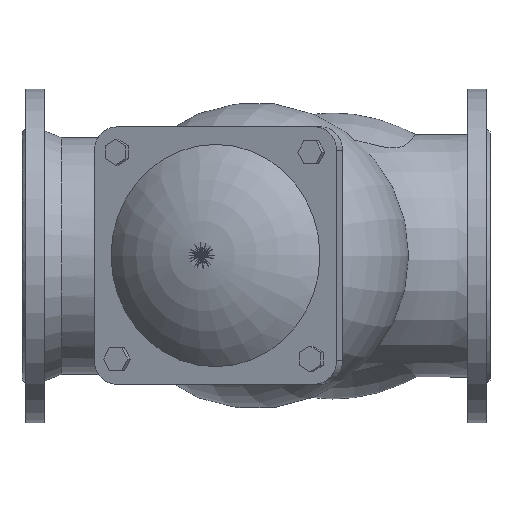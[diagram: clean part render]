
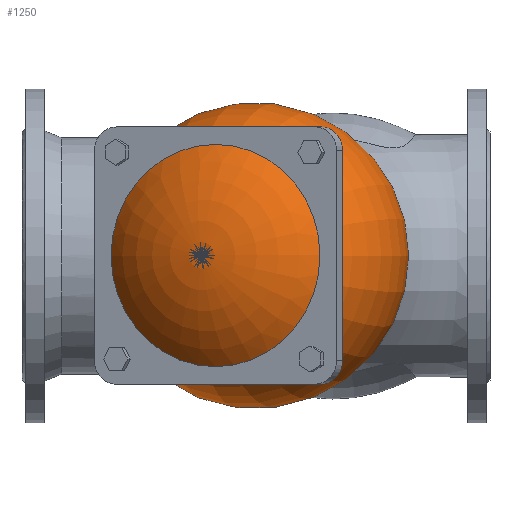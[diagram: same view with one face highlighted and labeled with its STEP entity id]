
A CAD part, top view. The second image highlights one B-rep face of the part: STEP entity #1250.
In plain terms, the highlighted toroidal (fillet/blend) face has major radius 4.235 mm and minor radius 135 mm.
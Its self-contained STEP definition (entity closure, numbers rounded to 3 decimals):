
#1250=ADVANCED_FACE('',(#4239),#4241,.T.);
#4239=FACE_OUTER_BOUND('',#4240,.T.);
#4240=EDGE_LOOP('',(#5202));
#4241=DEGENERATE_TOROIDAL_SURFACE('',#4242,4.235,135.,.T.);
#4242=AXIS2_PLACEMENT_3D('',#4243,#4244,#4245);
#4243=CARTESIAN_POINT('',(8.563,0.,127.531));
#4244=DIRECTION('',(0.342,0.,-0.94));
#4245=DIRECTION('',(-0.94,0.,-0.342));
#5202=ORIENTED_EDGE('',*,*,#5579,.T.);
#5579=EDGE_CURVE('',#6162,#6162,#6163,.F.);
#6162=VERTEX_POINT('',#9101);
#6163=CIRCLE('',#9102,95.);
#9101=CARTESIAN_POINT('',(-114.887,0.,188.946));
#9102=AXIS2_PLACEMENT_3D('',#9103,#9104,#9105);
#9103=CARTESIAN_POINT('',(-25.616,0.,221.438));
#9104=DIRECTION('',(0.342,0.,-0.94));
#9105=DIRECTION('',(-0.94,0.,-0.342));
